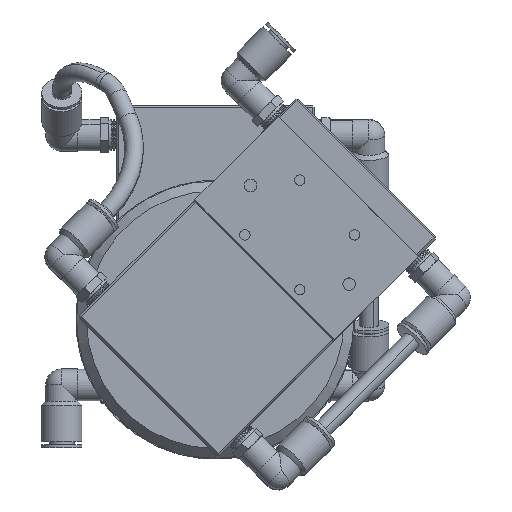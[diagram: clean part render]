
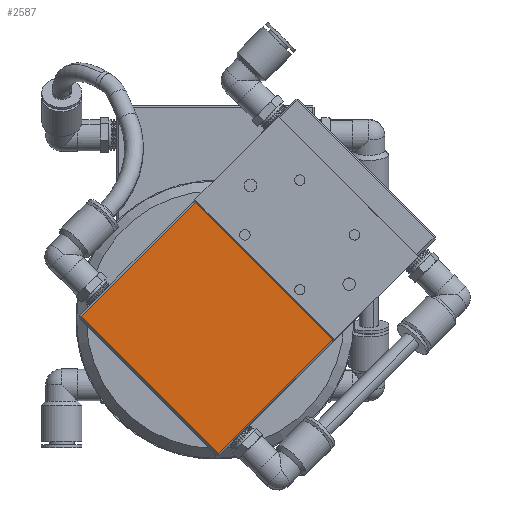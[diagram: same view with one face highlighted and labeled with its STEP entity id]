
A CAD part, top view. The second image highlights one B-rep face of the part: STEP entity #2587.
In plain terms, the highlighted planar face has unit normal (0, 0, 1).
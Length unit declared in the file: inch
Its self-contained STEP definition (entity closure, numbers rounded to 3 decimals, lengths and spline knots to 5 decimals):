
#343 = DIRECTION ( 'NONE',  ( 0., 0., -1. ) ) ;
#864 = EDGE_CURVE ( 'Defeatured_1_480+Defeatured_1_467+Defeatured_1_471+Defeatured_1_465', #17921, #24799, #19751, .T. ) ;
#1269 = LINE ( 'NONE', #7222, #20391 ) ;
#1635 = DIRECTION ( 'NONE',  ( 0.707, 0.707, 0. ) ) ;
#2587 = ADVANCED_FACE ( 'Defeatured_1_480', ( #12557 ), #14718, .F. ) ;
#2772 = LINE ( 'NONE', #15254, #3699 ) ;
#3203 = LINE ( 'NONE', #7619, #11352 ) ;
#3318 = ORIENTED_EDGE ( 'NONE', *, *, #17459, .T. ) ;
#3699 = VECTOR ( 'NONE', #17159, 39.37008 ) ;
#4085 = CARTESIAN_POINT ( 'NONE',  ( -1.68326, -1.465, 4.25074 ) ) ;
#4270 = EDGE_CURVE ( 'Defeatured_1_482+Defeatured_1_480+Defeatured_1_471+Defeatured_1_465', #10616, #21404, #2772, .T. ) ;
#4715 = CARTESIAN_POINT ( 'NONE',  ( 1.4676, -1.75067, 4.25074 ) ) ;
#5256 = CARTESIAN_POINT ( 'NONE',  ( -0.25067, -0.0324, 4.25074 ) ) ;
#7222 = CARTESIAN_POINT ( 'NONE',  ( -1.70094, -1.48267, 4.25074 ) ) ;
#7568 = VECTOR ( 'NONE', #23835, 39.37008 ) ;
#7619 = CARTESIAN_POINT ( 'NONE',  ( 1.4676, -1.75067, 4.25074 ) ) ;
#8640 = ORIENTED_EDGE ( 'NONE', *, *, #11824, .T. ) ;
#9234 = DIRECTION ( 'NONE',  ( -0.707, -0.707, 0. ) ) ;
#10616 = VERTEX_POINT ( 'NONE', #5256 ) ;
#11352 = VECTOR ( 'NONE', #1635, 39.37008 ) ;
#11824 = EDGE_CURVE ( 'Defeatured_1_480+Defeatured_1_471+Defeatured_1_482+Defeatured_1_467', #10616, #17921, #1269, .T. ) ;
#12557 = FACE_OUTER_BOUND ( 'NONE', #25420, .T. ) ;
#14363 = DIRECTION ( 'NONE',  ( -0.707, 0.707, 0. ) ) ;
#14718 = PLANE ( 'NONE',  #23435 ) ;
#15254 = CARTESIAN_POINT ( 'NONE',  ( -0.26834, -0.01472, 4.25074 ) ) ;
#17159 = DIRECTION ( 'NONE',  ( 0.707, -0.707, 0. ) ) ;
#17319 = ORIENTED_EDGE ( 'NONE', *, *, #864, .T. ) ;
#17459 = EDGE_CURVE ( 'Defeatured_1_480+Defeatured_1_465+Defeatured_1_467+Defeatured_1_482', #24799, #21404, #3203, .T. ) ;
#17921 = VERTEX_POINT ( 'NONE', #4085 ) ;
#19751 = LINE ( 'NONE', #23013, #7568 ) ;
#20391 = VECTOR ( 'NONE', #9234, 39.37008 ) ;
#21404 = VERTEX_POINT ( 'NONE', #4715 ) ;
#22376 = ORIENTED_EDGE ( 'NONE', *, *, #4270, .F. ) ;
#23013 = CARTESIAN_POINT ( 'NONE',  ( -1.70094, -1.44732, 4.25074 ) ) ;
#23435 = AXIS2_PLACEMENT_3D ( 'NONE', #24404, #343, #14363 ) ;
#23835 = DIRECTION ( 'NONE',  ( 0.707, -0.707, 0. ) ) ;
#24404 = CARTESIAN_POINT ( 'NONE',  ( -1.71862, -1.465, 4.25074 ) ) ;
#24799 = VERTEX_POINT ( 'NONE', #25916 ) ;
#25420 = EDGE_LOOP ( 'NONE', ( #17319, #3318, #22376, #8640 ) ) ;
#25916 = CARTESIAN_POINT ( 'NONE',  ( 0.035, -3.18326, 4.25074 ) ) ;
